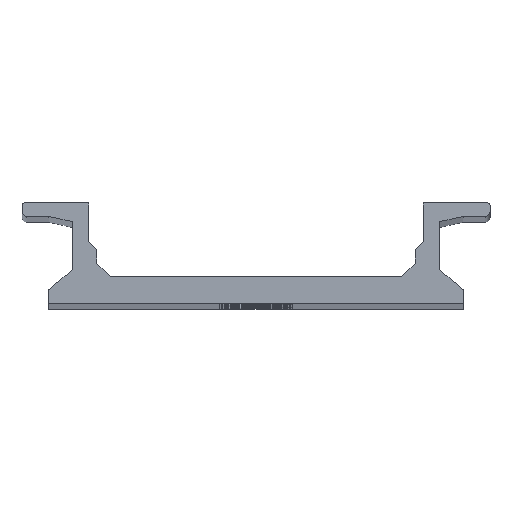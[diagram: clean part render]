
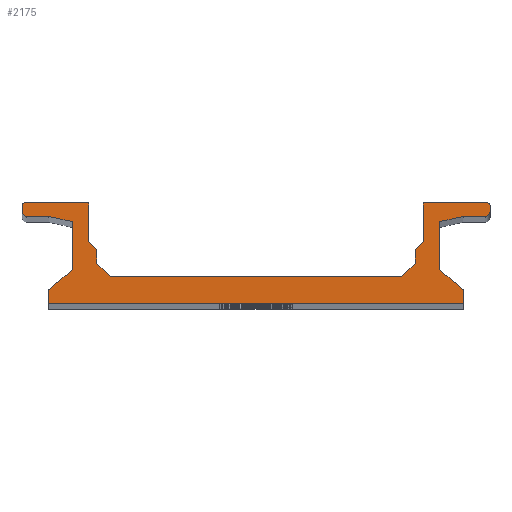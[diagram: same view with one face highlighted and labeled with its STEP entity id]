
A CAD part, top view. The second image highlights one B-rep face of the part: STEP entity #2175.
In plain terms, the highlighted planar face has unit normal (0, 0, 1).
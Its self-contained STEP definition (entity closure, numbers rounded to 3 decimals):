
#60=CIRCLE('',#2303,0.35);
#61=CIRCLE('',#2304,0.35);
#62=CIRCLE('',#2305,0.2);
#63=CIRCLE('',#2306,0.2);
#188=ORIENTED_EDGE('',*,*,#798,.T.);
#189=ORIENTED_EDGE('',*,*,#832,.T.);
#190=ORIENTED_EDGE('',*,*,#833,.T.);
#191=ORIENTED_EDGE('',*,*,#834,.T.);
#192=ORIENTED_EDGE('',*,*,#835,.T.);
#193=ORIENTED_EDGE('',*,*,#836,.T.);
#194=ORIENTED_EDGE('',*,*,#837,.T.);
#195=ORIENTED_EDGE('',*,*,#838,.T.);
#196=ORIENTED_EDGE('',*,*,#839,.T.);
#197=ORIENTED_EDGE('',*,*,#840,.T.);
#198=ORIENTED_EDGE('',*,*,#841,.T.);
#199=ORIENTED_EDGE('',*,*,#842,.T.);
#200=ORIENTED_EDGE('',*,*,#802,.T.);
#201=ORIENTED_EDGE('',*,*,#843,.T.);
#202=ORIENTED_EDGE('',*,*,#806,.T.);
#203=ORIENTED_EDGE('',*,*,#844,.T.);
#204=ORIENTED_EDGE('',*,*,#845,.T.);
#205=ORIENTED_EDGE('',*,*,#846,.T.);
#206=ORIENTED_EDGE('',*,*,#847,.T.);
#207=ORIENTED_EDGE('',*,*,#848,.T.);
#208=ORIENTED_EDGE('',*,*,#849,.T.);
#209=ORIENTED_EDGE('',*,*,#850,.T.);
#210=ORIENTED_EDGE('',*,*,#851,.T.);
#211=ORIENTED_EDGE('',*,*,#852,.T.);
#212=ORIENTED_EDGE('',*,*,#853,.T.);
#213=ORIENTED_EDGE('',*,*,#854,.T.);
#214=ORIENTED_EDGE('',*,*,#794,.T.);
#215=ORIENTED_EDGE('',*,*,#855,.T.);
#794=EDGE_CURVE('',#1119,#1118,#1334,.T.);
#798=EDGE_CURVE('',#1123,#1122,#1338,.T.);
#802=EDGE_CURVE('',#1127,#1126,#1342,.T.);
#806=EDGE_CURVE('',#1131,#1130,#1346,.T.);
#832=EDGE_CURVE('',#1122,#1152,#60,.T.);
#833=EDGE_CURVE('',#1152,#1153,#1368,.T.);
#834=EDGE_CURVE('',#1153,#1154,#1369,.T.);
#835=EDGE_CURVE('',#1154,#1155,#1370,.T.);
#836=EDGE_CURVE('',#1155,#1156,#1371,.T.);
#837=EDGE_CURVE('',#1156,#1157,#1372,.T.);
#838=EDGE_CURVE('',#1157,#1158,#1373,.T.);
#839=EDGE_CURVE('',#1158,#1159,#1374,.T.);
#840=EDGE_CURVE('',#1159,#1160,#1375,.T.);
#841=EDGE_CURVE('',#1160,#1161,#1376,.T.);
#842=EDGE_CURVE('',#1161,#1127,#1377,.T.);
#843=EDGE_CURVE('',#1126,#1131,#61,.T.);
#844=EDGE_CURVE('',#1130,#1162,#62,.T.);
#845=EDGE_CURVE('',#1162,#1163,#1378,.T.);
#846=EDGE_CURVE('',#1163,#1164,#1379,.T.);
#847=EDGE_CURVE('',#1164,#1165,#1380,.T.);
#848=EDGE_CURVE('',#1165,#1166,#1381,.T.);
#849=EDGE_CURVE('',#1166,#1167,#1382,.T.);
#850=EDGE_CURVE('',#1167,#1168,#1383,.T.);
#851=EDGE_CURVE('',#1168,#1169,#1384,.T.);
#852=EDGE_CURVE('',#1169,#1170,#1385,.T.);
#853=EDGE_CURVE('',#1170,#1171,#1386,.T.);
#854=EDGE_CURVE('',#1171,#1119,#1387,.T.);
#855=EDGE_CURVE('',#1118,#1123,#63,.T.);
#1118=VERTEX_POINT('',#3131);
#1119=VERTEX_POINT('',#3133);
#1122=VERTEX_POINT('',#3140);
#1123=VERTEX_POINT('',#3142);
#1126=VERTEX_POINT('',#3149);
#1127=VERTEX_POINT('',#3151);
#1130=VERTEX_POINT('',#3158);
#1131=VERTEX_POINT('',#3160);
#1152=VERTEX_POINT('',#3209);
#1153=VERTEX_POINT('',#3211);
#1154=VERTEX_POINT('',#3213);
#1155=VERTEX_POINT('',#3215);
#1156=VERTEX_POINT('',#3217);
#1157=VERTEX_POINT('',#3219);
#1158=VERTEX_POINT('',#3221);
#1159=VERTEX_POINT('',#3223);
#1160=VERTEX_POINT('',#3225);
#1161=VERTEX_POINT('',#3227);
#1162=VERTEX_POINT('',#3231);
#1163=VERTEX_POINT('',#3233);
#1164=VERTEX_POINT('',#3235);
#1165=VERTEX_POINT('',#3237);
#1166=VERTEX_POINT('',#3239);
#1167=VERTEX_POINT('',#3241);
#1168=VERTEX_POINT('',#3243);
#1169=VERTEX_POINT('',#3245);
#1170=VERTEX_POINT('',#3247);
#1171=VERTEX_POINT('',#3249);
#1334=LINE('',#3132,#1570);
#1338=LINE('',#3141,#1574);
#1342=LINE('',#3150,#1578);
#1346=LINE('',#3159,#1582);
#1368=LINE('',#3210,#1604);
#1369=LINE('',#3212,#1605);
#1370=LINE('',#3214,#1606);
#1371=LINE('',#3216,#1607);
#1372=LINE('',#3218,#1608);
#1373=LINE('',#3220,#1609);
#1374=LINE('',#3222,#1610);
#1375=LINE('',#3224,#1611);
#1376=LINE('',#3226,#1612);
#1377=LINE('',#3228,#1613);
#1378=LINE('',#3232,#1614);
#1379=LINE('',#3234,#1615);
#1380=LINE('',#3236,#1616);
#1381=LINE('',#3238,#1617);
#1382=LINE('',#3240,#1618);
#1383=LINE('',#3242,#1619);
#1384=LINE('',#3244,#1620);
#1385=LINE('',#3246,#1621);
#1386=LINE('',#3248,#1622);
#1387=LINE('',#3250,#1623);
#1570=VECTOR('',#2497,1000.);
#1574=VECTOR('',#2503,1000.);
#1578=VECTOR('',#2509,1000.);
#1582=VECTOR('',#2515,1000.);
#1604=VECTOR('',#2551,1000.);
#1605=VECTOR('',#2552,1000.);
#1606=VECTOR('',#2553,1000.);
#1607=VECTOR('',#2554,1000.);
#1608=VECTOR('',#2555,1000.);
#1609=VECTOR('',#2556,1000.);
#1610=VECTOR('',#2557,1000.);
#1611=VECTOR('',#2558,1000.);
#1612=VECTOR('',#2559,1000.);
#1613=VECTOR('',#2560,1000.);
#1614=VECTOR('',#2565,1000.);
#1615=VECTOR('',#2566,1000.);
#1616=VECTOR('',#2567,1000.);
#1617=VECTOR('',#2568,1000.);
#1618=VECTOR('',#2569,1000.);
#1619=VECTOR('',#2570,1000.);
#1620=VECTOR('',#2571,1000.);
#1621=VECTOR('',#2572,1000.);
#1622=VECTOR('',#2573,1000.);
#1623=VECTOR('',#2574,1000.);
#1809=EDGE_LOOP('',(#188,#189,#190,#191,#192,#193,#194,#195,#196,#197,#198,
#199,#200,#201,#202,#203,#204,#205,#206,#207,#208,#209,#210,#211,#212,#213,
#214,#215));
#1959=FACE_BOUND('',#1809,.T.);
#2109=PLANE('',#2302);
#2175=ADVANCED_FACE('',(#1959),#2109,.T.);
#2302=AXIS2_PLACEMENT_3D('',#3207,#2547,#2548);
#2303=AXIS2_PLACEMENT_3D('',#3208,#2549,#2550);
#2304=AXIS2_PLACEMENT_3D('',#3229,#2561,#2562);
#2305=AXIS2_PLACEMENT_3D('',#3230,#2563,#2564);
#2306=AXIS2_PLACEMENT_3D('',#3251,#2575,#2576);
#2497=DIRECTION('',(-1.,0.,0.));
#2503=DIRECTION('',(0.,-1.,0.));
#2509=DIRECTION('',(1.,0.,0.));
#2515=DIRECTION('',(0.,1.,0.));
#2547=DIRECTION('',(0.,0.,1.));
#2548=DIRECTION('',(1.,0.,0.));
#2549=DIRECTION('',(0.,0.,1.));
#2550=DIRECTION('',(1.,0.,0.));
#2551=DIRECTION('',(1.,0.,0.));
#2552=DIRECTION('',(0.975,-0.223,0.));
#2553=DIRECTION('',(0.,-1.,0.));
#2554=DIRECTION('',(-0.759,-0.651,0.));
#2555=DIRECTION('',(0.,-1.,0.));
#2556=DIRECTION('',(1.,0.,0.));
#2557=DIRECTION('',(0.,1.,0.));
#2558=DIRECTION('',(-0.759,0.651,0.));
#2559=DIRECTION('',(0.,1.,0.));
#2560=DIRECTION('',(0.975,0.223,0.));
#2561=DIRECTION('',(0.,0.,1.));
#2562=DIRECTION('',(1.,0.,0.));
#2563=DIRECTION('',(0.,0.,1.));
#2564=DIRECTION('',(1.,0.,0.));
#2565=DIRECTION('',(-1.,0.,0.));
#2566=DIRECTION('',(0.,-1.,0.));
#2567=DIRECTION('',(-0.707,-0.707,0.));
#2568=DIRECTION('',(0.,-1.,0.));
#2569=DIRECTION('',(-0.707,-0.707,0.));
#2570=DIRECTION('',(-1.,0.,0.));
#2571=DIRECTION('',(-0.707,0.707,0.));
#2572=DIRECTION('',(0.,1.,0.));
#2573=DIRECTION('',(-0.707,0.707,0.));
#2574=DIRECTION('',(0.,1.,0.));
#2575=DIRECTION('',(0.,0.,1.));
#2576=DIRECTION('',(1.,0.,0.));
#3131=CARTESIAN_POINT('',(-17.3,0.,0.));
#3132=CARTESIAN_POINT('',(-12.5,0.,0.));
#3133=CARTESIAN_POINT('',(-12.5,0.,0.));
#3140=CARTESIAN_POINT('',(-17.5,-0.65,0.));
#3141=CARTESIAN_POINT('',(-17.5,0.,0.));
#3142=CARTESIAN_POINT('',(-17.5,-0.2,0.));
#3149=CARTESIAN_POINT('',(17.15,-1.,0.));
#3150=CARTESIAN_POINT('',(15.5,-1.,0.));
#3151=CARTESIAN_POINT('',(15.5,-1.,0.));
#3158=CARTESIAN_POINT('',(17.5,-0.2,0.));
#3159=CARTESIAN_POINT('',(17.5,-1.,0.));
#3160=CARTESIAN_POINT('',(17.5,-0.65,0.));
#3207=CARTESIAN_POINT('',(0.,0.,0.));
#3208=CARTESIAN_POINT('',(-17.15,-0.65,0.));
#3209=CARTESIAN_POINT('',(-17.15,-1.,0.));
#3210=CARTESIAN_POINT('',(-17.5,-1.,0.));
#3211=CARTESIAN_POINT('',(-15.5,-1.,0.));
#3212=CARTESIAN_POINT('',(-15.5,-1.,0.));
#3213=CARTESIAN_POINT('',(-13.75,-1.4,0.));
#3214=CARTESIAN_POINT('',(-13.75,-1.4,0.));
#3215=CARTESIAN_POINT('',(-13.75,-5.,0.));
#3216=CARTESIAN_POINT('',(-13.75,-5.,0.));
#3217=CARTESIAN_POINT('',(-15.5,-6.5,0.));
#3218=CARTESIAN_POINT('',(-15.5,-6.5,0.));
#3219=CARTESIAN_POINT('',(-15.5,-7.5,0.));
#3220=CARTESIAN_POINT('',(-15.5,-7.5,0.));
#3221=CARTESIAN_POINT('',(15.5,-7.5,0.));
#3222=CARTESIAN_POINT('',(15.5,-7.5,0.));
#3223=CARTESIAN_POINT('',(15.5,-6.5,0.));
#3224=CARTESIAN_POINT('',(15.5,-6.5,0.));
#3225=CARTESIAN_POINT('',(13.75,-5.,0.));
#3226=CARTESIAN_POINT('',(13.75,-5.,0.));
#3227=CARTESIAN_POINT('',(13.75,-1.4,0.));
#3228=CARTESIAN_POINT('',(13.75,-1.4,0.));
#3229=CARTESIAN_POINT('',(17.15,-0.65,0.));
#3230=CARTESIAN_POINT('',(17.3,-0.2,0.));
#3231=CARTESIAN_POINT('',(17.3,0.,0.));
#3232=CARTESIAN_POINT('',(17.5,0.,0.));
#3233=CARTESIAN_POINT('',(12.5,0.,0.));
#3234=CARTESIAN_POINT('',(12.5,0.,0.));
#3235=CARTESIAN_POINT('',(12.5,-2.9,0.));
#3236=CARTESIAN_POINT('',(12.5,-2.9,0.));
#3237=CARTESIAN_POINT('',(11.9,-3.5,0.));
#3238=CARTESIAN_POINT('',(11.9,-3.5,0.));
#3239=CARTESIAN_POINT('',(11.9,-4.5,0.));
#3240=CARTESIAN_POINT('',(11.9,-4.5,0.));
#3241=CARTESIAN_POINT('',(10.9,-5.5,0.));
#3242=CARTESIAN_POINT('',(10.9,-5.5,0.));
#3243=CARTESIAN_POINT('',(-10.9,-5.5,0.));
#3244=CARTESIAN_POINT('',(-10.9,-5.5,0.));
#3245=CARTESIAN_POINT('',(-11.9,-4.5,0.));
#3246=CARTESIAN_POINT('',(-11.9,-4.5,0.));
#3247=CARTESIAN_POINT('',(-11.9,-3.5,0.));
#3248=CARTESIAN_POINT('',(-11.9,-3.5,0.));
#3249=CARTESIAN_POINT('',(-12.5,-2.9,0.));
#3250=CARTESIAN_POINT('',(-12.5,-2.9,0.));
#3251=CARTESIAN_POINT('',(-17.3,-0.2,0.));
